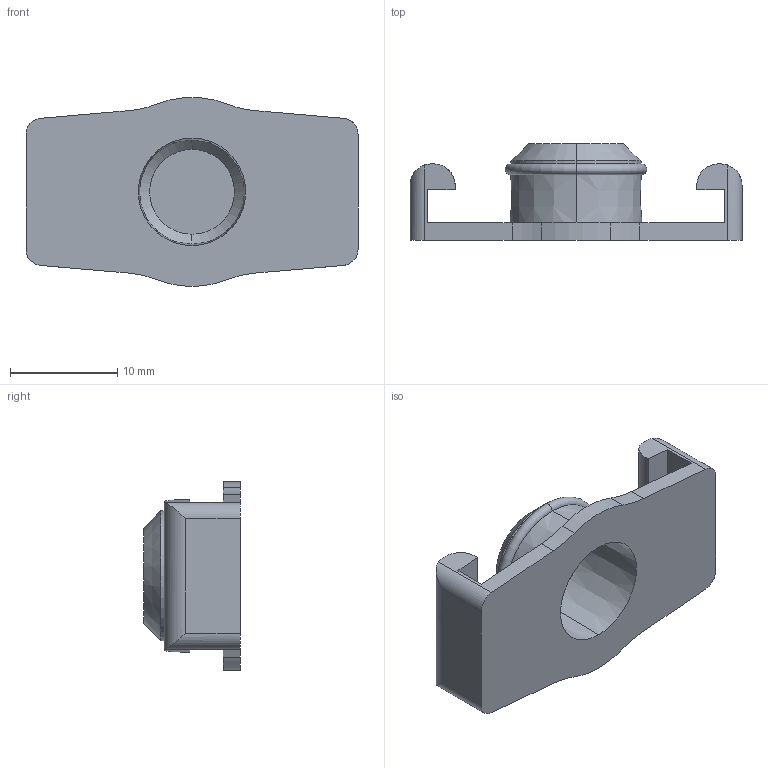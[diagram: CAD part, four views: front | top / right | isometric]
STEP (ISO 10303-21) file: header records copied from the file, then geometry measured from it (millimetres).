
FILE_DESCRIPTION (( 'STEP AP214' ), '1' );
FILE_NAME ('8001035_CUS.STEP', '2022-07-05T14:00:30', ( '' ), ( '' ), 'SwSTEP 2.0', 'SolidWorks 2020', '' );
FILE_SCHEMA (( 'AUTOMOTIVE_DESIGN' ));
Length unit declared in the file: millimetre
Products named in the file (1): 8001035_CUS
Bounding box: 30.9 x 9 x 17.58 mm (x, y, z)
Volume: 1353.9 mm3; surface area: 2002.2 mm2
Topology: 1 solids, 1 shells, 45 faces, 115 edges, 74 vertices
Faces by surface type: plane 18, cylinder 15, cone 10, torus 2
Entity records: 1427 total; most frequent: CARTESIAN_POINT 299, DIRECTION 231, ORIENTED_EDGE 230, EDGE_CURVE 115, AXIS2_PLACEMENT_3D 82, VERTEX_POINT 74, LINE 67, VECTOR 67
